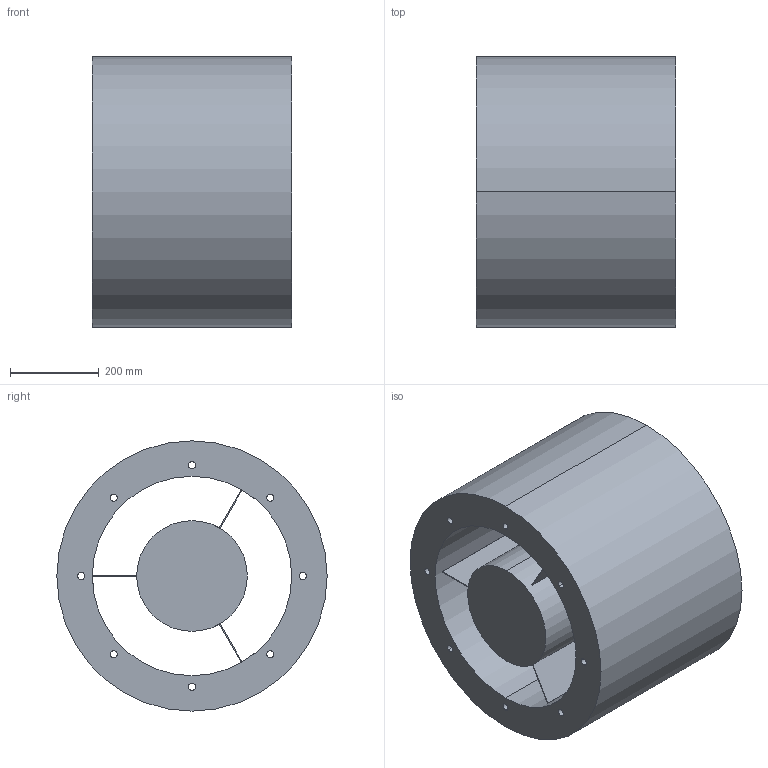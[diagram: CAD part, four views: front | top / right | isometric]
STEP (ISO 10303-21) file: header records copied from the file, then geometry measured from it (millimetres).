
FILE_DESCRIPTION(('STEP AP214'),'1');
FILE_NAME('accessory_5211813600.stp','2017-10-09T11:37:46',('TraceParts'),('TraceParts S.A.'),'Spatial InterOp 3D',' ',' ');
FILE_SCHEMA(('automotive_design'));
Length unit declared in the file: millimetre
Products named in the file (1): accessory_5211813600
Bounding box: 450 x 610 x 610 mm (x, y, z)
Volume: 78203558.6 mm3; surface area: 2491428.4 mm2
Topology: 1 solids, 1 shells, 40 faces, 107 edges, 71 vertices
Faces by surface type: cylinder 22, plane 16, torus 2
Entity records: 1664 total; most frequent: DIRECTION 250, CARTESIAN_POINT 219, ORIENTED_EDGE 214, EDGE_CURVE 107, AXIS2_PLACEMENT_3D 102, VERTEX_POINT 71, EDGE_LOOP 64, CIRCLE 61
